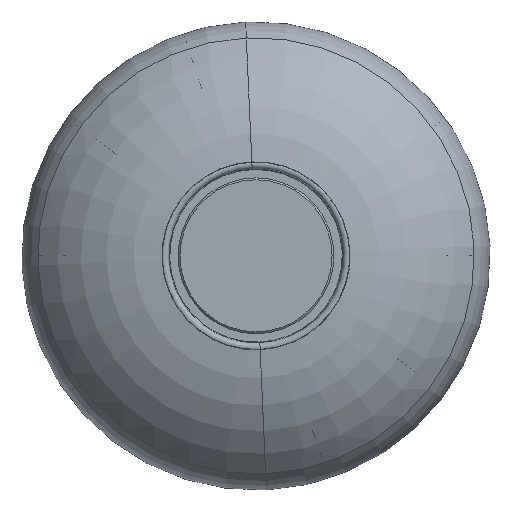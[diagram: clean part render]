
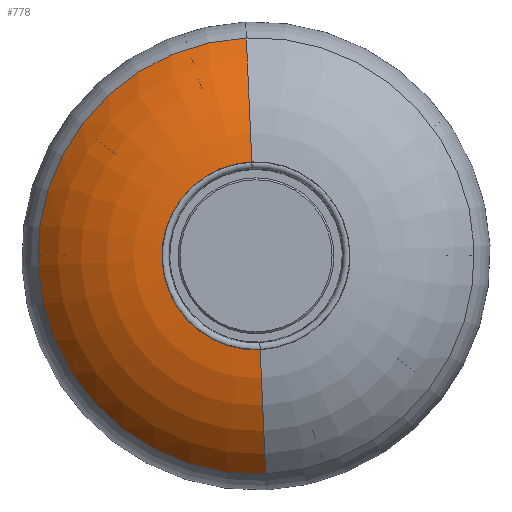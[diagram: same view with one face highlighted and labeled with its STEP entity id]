
A CAD part, top view. The second image highlights one B-rep face of the part: STEP entity #778.
In plain terms, the highlighted toroidal (fillet/blend) face has major radius 43.457 mm and minor radius 92.2 mm.
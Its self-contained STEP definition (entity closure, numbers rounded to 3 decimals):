
#134 = AXIS2_PLACEMENT_3D ( 'NONE', #8674, #994, #3222 ) ;
#303 = CARTESIAN_POINT ( 'NONE',  ( 0., -3.146, -49.457 ) ) ;
#501 = AXIS2_PLACEMENT_3D ( 'NONE', #2375, #8665, #2509 ) ;
#659 = EDGE_CURVE ( 'NONE', #1190, #7860, #691, .T. ) ;
#691 = CIRCLE ( 'NONE', #695, 92.2 ) ;
#695 = AXIS2_PLACEMENT_3D ( 'NONE', #8448, #1598, #9253 ) ;
#778 = ADVANCED_FACE ( 'NONE', ( #4388 ), #9313, .T. ) ;
#994 = DIRECTION ( 'NONE',  ( 1., 0., 0. ) ) ;
#1129 = DIRECTION ( 'NONE',  ( 0., -1., 0. ) ) ;
#1190 = VERTEX_POINT ( 'NONE', #6026 ) ;
#1407 = CIRCLE ( 'NONE', #134, 92.2 ) ;
#1571 = ORIENTED_EDGE ( 'NONE', *, *, #4294, .T. ) ;
#1598 = DIRECTION ( 'NONE',  ( -1., 0., 0. ) ) ;
#2299 = ORIENTED_EDGE ( 'NONE', *, *, #4614, .F. ) ;
#2375 = CARTESIAN_POINT ( 'NONE',  ( 0., 88.859, 0. ) ) ;
#2509 = DIRECTION ( 'NONE',  ( 0., 0., -1. ) ) ;
#3222 = DIRECTION ( 'NONE',  ( 0., 0., -1. ) ) ;
#3491 = EDGE_CURVE ( 'NONE', #5191, #3920, #1407, .T. ) ;
#3665 = EDGE_LOOP ( 'NONE', ( #5155, #1571, #5107, #2299 ) ) ;
#3920 = VERTEX_POINT ( 'NONE', #6875 ) ;
#4220 = CARTESIAN_POINT ( 'NONE',  ( 0., 30.423, 0. ) ) ;
#4294 = EDGE_CURVE ( 'NONE', #5191, #1190, #8092, .T. ) ;
#4388 = FACE_OUTER_BOUND ( 'NONE', #3665, .T. ) ;
#4414 = AXIS2_PLACEMENT_3D ( 'NONE', #4220, #5890, #6847 ) ;
#4614 = EDGE_CURVE ( 'NONE', #3920, #7860, #8695, .T. ) ;
#5107 = ORIENTED_EDGE ( 'NONE', *, *, #659, .T. ) ;
#5155 = ORIENTED_EDGE ( 'NONE', *, *, #3491, .F. ) ;
#5191 = VERTEX_POINT ( 'NONE', #8021 ) ;
#5890 = DIRECTION ( 'NONE',  ( 0., -1., 0. ) ) ;
#6026 = CARTESIAN_POINT ( 'NONE',  ( 0., 30.423, -114.774 ) ) ;
#6266 = AXIS2_PLACEMENT_3D ( 'NONE', #7369, #1129, #8097 ) ;
#6847 = DIRECTION ( 'NONE',  ( 0., 0., -1. ) ) ;
#6875 = CARTESIAN_POINT ( 'NONE',  ( 0., -3.146, 49.457 ) ) ;
#7369 = CARTESIAN_POINT ( 'NONE',  ( 0., -3.146, 0. ) ) ;
#7860 = VERTEX_POINT ( 'NONE', #303 ) ;
#8021 = CARTESIAN_POINT ( 'NONE',  ( 0., 30.423, 114.774 ) ) ;
#8092 = CIRCLE ( 'NONE', #4414, 114.774 ) ;
#8097 = DIRECTION ( 'NONE',  ( 0., 0., -1. ) ) ;
#8448 = CARTESIAN_POINT ( 'NONE',  ( 0., 88.859, -43.457 ) ) ;
#8665 = DIRECTION ( 'NONE',  ( 0., -1., 0. ) ) ;
#8674 = CARTESIAN_POINT ( 'NONE',  ( 0., 88.859, 43.457 ) ) ;
#8695 = CIRCLE ( 'NONE', #6266, 49.457 ) ;
#9253 = DIRECTION ( 'NONE',  ( 0., 0., 1. ) ) ;
#9313 = TOROIDAL_SURFACE ( 'NONE', #501, 43.457, 92.2 ) ;
